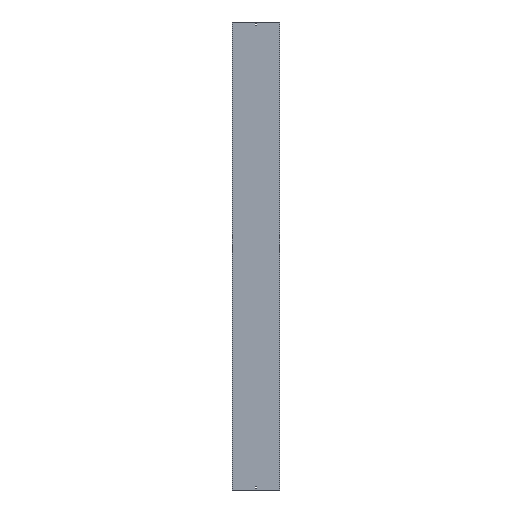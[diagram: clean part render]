
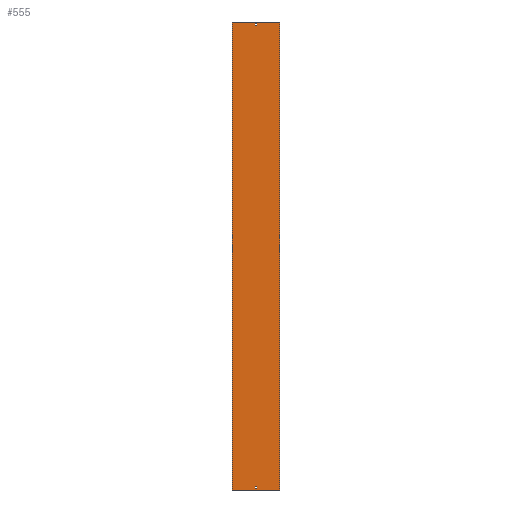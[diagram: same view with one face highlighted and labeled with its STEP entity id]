
A CAD part, front view. The second image highlights one B-rep face of the part: STEP entity #555.
In plain terms, the highlighted planar face has unit normal (0, -1, 0).
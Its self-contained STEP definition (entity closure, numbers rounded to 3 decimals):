
#20 = DIRECTION ( 'NONE',  ( 0., 0., -1. ) ) ;
#36 = VERTEX_POINT ( 'NONE', #1458 ) ;
#41 = LINE ( 'NONE', #700, #1420 ) ;
#50 = DIRECTION ( 'NONE',  ( 1., 0., 0. ) ) ;
#81 = CARTESIAN_POINT ( 'NONE',  ( -152., 0., -1500. ) ) ;
#108 = DIRECTION ( 'NONE',  ( 0., 0., -1. ) ) ;
#145 = CARTESIAN_POINT ( 'NONE',  ( 3.25, 0., 1488. ) ) ;
#156 = EDGE_CURVE ( 'NONE', #1454, #593, #1222, .T. ) ;
#196 = VECTOR ( 'NONE', #544, 1000. ) ;
#211 = VERTEX_POINT ( 'NONE', #1603 ) ;
#230 = DIRECTION ( 'NONE',  ( 0., 0., -1. ) ) ;
#241 = ORIENTED_EDGE ( 'NONE', *, *, #624, .T. ) ;
#250 = ORIENTED_EDGE ( 'NONE', *, *, #402, .F. ) ;
#270 = EDGE_CURVE ( 'NONE', #618, #1256, #1142, .T. ) ;
#308 = CARTESIAN_POINT ( 'NONE',  ( -152., 0., 1500. ) ) ;
#317 = DIRECTION ( 'NONE',  ( -1., 0., 0. ) ) ;
#344 = CARTESIAN_POINT ( 'NONE',  ( 3.25, 0., -1488. ) ) ;
#346 = LINE ( 'NONE', #381, #1152 ) ;
#347 = DIRECTION ( 'NONE',  ( 1., 0., 0. ) ) ;
#381 = CARTESIAN_POINT ( 'NONE',  ( -3.25, 0., -1488. ) ) ;
#402 = EDGE_CURVE ( 'NONE', #211, #1671, #1675, .T. ) ;
#424 = VERTEX_POINT ( 'NONE', #900 ) ;
#462 = DIRECTION ( 'NONE',  ( 0., 0., 1. ) ) ;
#474 = CARTESIAN_POINT ( 'NONE',  ( -3.25, 0., -1479. ) ) ;
#525 = CARTESIAN_POINT ( 'NONE',  ( -3.25, 0., 1488. ) ) ;
#526 = ORIENTED_EDGE ( 'NONE', *, *, #1189, .T. ) ;
#542 = VERTEX_POINT ( 'NONE', #1240 ) ;
#544 = DIRECTION ( 'NONE',  ( -1., 0., 0. ) ) ;
#547 = VECTOR ( 'NONE', #1353, 1000. ) ;
#555 = ADVANCED_FACE ( 'NONE', ( #1456, #677, #961 ), #1201, .F. ) ;
#556 = DIRECTION ( 'NONE',  ( 1., 0., 0. ) ) ;
#565 = EDGE_CURVE ( 'NONE', #36, #618, #41, .T. ) ;
#593 = VERTEX_POINT ( 'NONE', #1431 ) ;
#609 = CARTESIAN_POINT ( 'NONE',  ( 3.25, 0., -1488. ) ) ;
#618 = VERTEX_POINT ( 'NONE', #889 ) ;
#624 = EDGE_CURVE ( 'NONE', #1533, #1454, #346, .T. ) ;
#632 = VECTOR ( 'NONE', #788, 1000. ) ;
#653 = VECTOR ( 'NONE', #347, 1000. ) ;
#663 = CARTESIAN_POINT ( 'NONE',  ( -152., 0., 1500. ) ) ;
#677 = FACE_BOUND ( 'NONE', #1674, .T. ) ;
#681 = VECTOR ( 'NONE', #943, 1000. ) ;
#700 = CARTESIAN_POINT ( 'NONE',  ( -152., 0., 1500. ) ) ;
#779 = EDGE_CURVE ( 'NONE', #542, #424, #1571, .T. ) ;
#788 = DIRECTION ( 'NONE',  ( 0., 0., -1. ) ) ;
#822 = VECTOR ( 'NONE', #108, 1000. ) ;
#835 = EDGE_LOOP ( 'NONE', ( #241, #1245, #897, #1582 ) ) ;
#887 = ORIENTED_EDGE ( 'NONE', *, *, #1542, .T. ) ;
#889 = CARTESIAN_POINT ( 'NONE',  ( 152., 0., 1500. ) ) ;
#897 = ORIENTED_EDGE ( 'NONE', *, *, #1663, .T. ) ;
#900 = CARTESIAN_POINT ( 'NONE',  ( -3.25, 0., 1479. ) ) ;
#901 = CARTESIAN_POINT ( 'NONE',  ( 152., 0., -1500. ) ) ;
#910 = LINE ( 'NONE', #663, #1608 ) ;
#920 = ORIENTED_EDGE ( 'NONE', *, *, #565, .F. ) ;
#928 = VECTOR ( 'NONE', #1185, 1000. ) ;
#943 = DIRECTION ( 'NONE',  ( -1., 0., 0. ) ) ;
#950 = DIRECTION ( 'NONE',  ( 0., 1., 0. ) ) ;
#961 = FACE_BOUND ( 'NONE', #835, .T. ) ;
#974 = CARTESIAN_POINT ( 'NONE',  ( -3.25, 0., -1488. ) ) ;
#982 = ORIENTED_EDGE ( 'NONE', *, *, #779, .F. ) ;
#991 = LINE ( 'NONE', #1511, #653 ) ;
#1040 = CARTESIAN_POINT ( 'NONE',  ( -3.25, 0., 1488. ) ) ;
#1074 = ORIENTED_EDGE ( 'NONE', *, *, #1455, .F. ) ;
#1109 = CARTESIAN_POINT ( 'NONE',  ( -3.25, 0., -1479. ) ) ;
#1114 = CARTESIAN_POINT ( 'NONE',  ( -152., 0., -1500. ) ) ;
#1138 = EDGE_CURVE ( 'NONE', #1671, #542, #1676, .T. ) ;
#1142 = LINE ( 'NONE', #1274, #822 ) ;
#1152 = VECTOR ( 'NONE', #462, 1000. ) ;
#1185 = DIRECTION ( 'NONE',  ( 0., 0., 1. ) ) ;
#1189 = EDGE_CURVE ( 'NONE', #36, #1530, #910, .T. ) ;
#1201 = PLANE ( 'NONE',  #1341 ) ;
#1203 = VECTOR ( 'NONE', #50, 1000. ) ;
#1218 = ORIENTED_EDGE ( 'NONE', *, *, #270, .F. ) ;
#1222 = LINE ( 'NONE', #1109, #1203 ) ;
#1229 = LINE ( 'NONE', #1500, #681 ) ;
#1240 = CARTESIAN_POINT ( 'NONE',  ( -3.25, 0., 1488. ) ) ;
#1245 = ORIENTED_EDGE ( 'NONE', *, *, #156, .T. ) ;
#1256 = VERTEX_POINT ( 'NONE', #901 ) ;
#1274 = CARTESIAN_POINT ( 'NONE',  ( 152., 0., 1500. ) ) ;
#1277 = EDGE_LOOP ( 'NONE', ( #887, #1218, #920, #526 ) ) ;
#1313 = VECTOR ( 'NONE', #230, 1000. ) ;
#1341 = AXIS2_PLACEMENT_3D ( 'NONE', #308, #950, #317 ) ;
#1353 = DIRECTION ( 'NONE',  ( 1., 0., 0. ) ) ;
#1363 = EDGE_CURVE ( 'NONE', #1596, #1533, #1229, .T. ) ;
#1382 = LINE ( 'NONE', #81, #547 ) ;
#1404 = ORIENTED_EDGE ( 'NONE', *, *, #1138, .F. ) ;
#1420 = VECTOR ( 'NONE', #556, 1000. ) ;
#1431 = CARTESIAN_POINT ( 'NONE',  ( 3.25, 0., -1479. ) ) ;
#1454 = VERTEX_POINT ( 'NONE', #474 ) ;
#1455 = EDGE_CURVE ( 'NONE', #424, #211, #991, .T. ) ;
#1456 = FACE_OUTER_BOUND ( 'NONE', #1277, .T. ) ;
#1458 = CARTESIAN_POINT ( 'NONE',  ( -152., 0., 1500. ) ) ;
#1500 = CARTESIAN_POINT ( 'NONE',  ( -3.25, 0., -1488. ) ) ;
#1511 = CARTESIAN_POINT ( 'NONE',  ( -3.25, 0., 1479. ) ) ;
#1520 = CARTESIAN_POINT ( 'NONE',  ( 3.25, 0., 1488. ) ) ;
#1530 = VERTEX_POINT ( 'NONE', #1114 ) ;
#1533 = VERTEX_POINT ( 'NONE', #974 ) ;
#1542 = EDGE_CURVE ( 'NONE', #1530, #1256, #1382, .T. ) ;
#1549 = LINE ( 'NONE', #609, #1313 ) ;
#1571 = LINE ( 'NONE', #525, #632 ) ;
#1582 = ORIENTED_EDGE ( 'NONE', *, *, #1363, .T. ) ;
#1596 = VERTEX_POINT ( 'NONE', #344 ) ;
#1603 = CARTESIAN_POINT ( 'NONE',  ( 3.25, 0., 1479. ) ) ;
#1608 = VECTOR ( 'NONE', #20, 1000. ) ;
#1663 = EDGE_CURVE ( 'NONE', #593, #1596, #1549, .T. ) ;
#1671 = VERTEX_POINT ( 'NONE', #1520 ) ;
#1674 = EDGE_LOOP ( 'NONE', ( #1074, #982, #1404, #250 ) ) ;
#1675 = LINE ( 'NONE', #145, #928 ) ;
#1676 = LINE ( 'NONE', #1040, #196 ) ;
